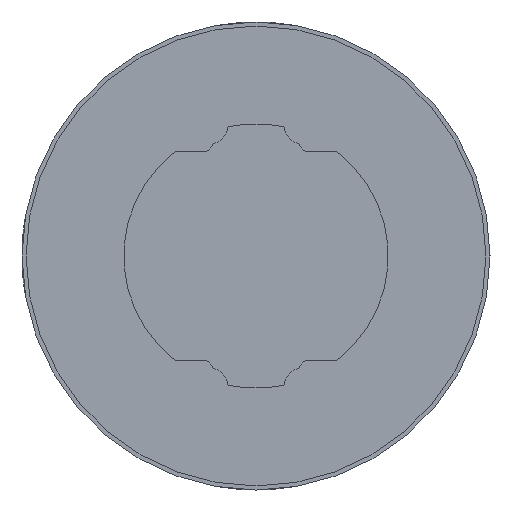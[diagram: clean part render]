
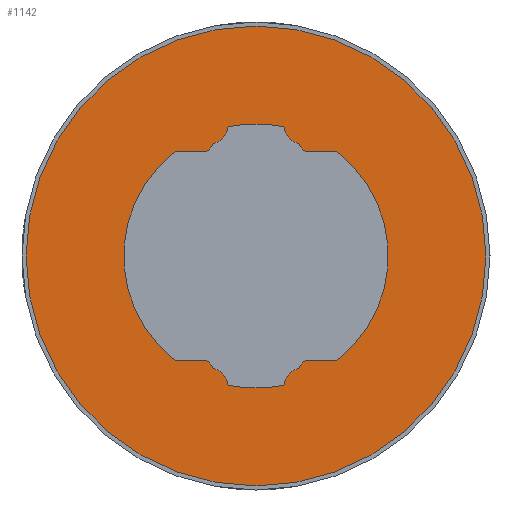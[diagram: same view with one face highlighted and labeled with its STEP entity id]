
A CAD part, left-side view. The second image highlights one B-rep face of the part: STEP entity #1142.
In plain terms, the highlighted planar face has unit normal (-1, 0, 0).
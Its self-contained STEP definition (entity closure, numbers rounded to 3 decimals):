
#46=PLANE('',#1265);
#101=LINE('',#1872,#189);
#102=LINE('',#1876,#190);
#103=LINE('',#1880,#191);
#104=LINE('',#1884,#192);
#105=LINE('',#1896,#193);
#106=LINE('',#1900,#194);
#107=LINE('',#1904,#195);
#108=LINE('',#1908,#196);
#189=VECTOR('',#1518,1000.);
#190=VECTOR('',#1521,1000.);
#191=VECTOR('',#1524,1000.);
#192=VECTOR('',#1527,1000.);
#193=VECTOR('',#1538,1000.);
#194=VECTOR('',#1541,1000.);
#195=VECTOR('',#1544,1000.);
#196=VECTOR('',#1547,1000.);
#381=ORIENTED_EDGE('',*,*,#641,.F.);
#382=ORIENTED_EDGE('',*,*,#642,.F.);
#383=ORIENTED_EDGE('',*,*,#643,.T.);
#384=ORIENTED_EDGE('',*,*,#644,.F.);
#385=ORIENTED_EDGE('',*,*,#645,.T.);
#386=ORIENTED_EDGE('',*,*,#646,.F.);
#387=ORIENTED_EDGE('',*,*,#647,.F.);
#388=ORIENTED_EDGE('',*,*,#648,.T.);
#389=ORIENTED_EDGE('',*,*,#649,.F.);
#390=ORIENTED_EDGE('',*,*,#650,.F.);
#391=ORIENTED_EDGE('',*,*,#651,.F.);
#392=ORIENTED_EDGE('',*,*,#652,.T.);
#393=ORIENTED_EDGE('',*,*,#653,.F.);
#394=ORIENTED_EDGE('',*,*,#654,.F.);
#395=ORIENTED_EDGE('',*,*,#655,.T.);
#396=ORIENTED_EDGE('',*,*,#656,.F.);
#397=ORIENTED_EDGE('',*,*,#657,.T.);
#398=ORIENTED_EDGE('',*,*,#658,.F.);
#399=ORIENTED_EDGE('',*,*,#659,.F.);
#400=ORIENTED_EDGE('',*,*,#660,.T.);
#401=ORIENTED_EDGE('',*,*,#661,.F.);
#402=ORIENTED_EDGE('',*,*,#662,.F.);
#403=ORIENTED_EDGE('',*,*,#663,.F.);
#404=ORIENTED_EDGE('',*,*,#664,.T.);
#405=ORIENTED_EDGE('',*,*,#665,.F.);
#641=EDGE_CURVE('',#783,#783,#881,.T.);
#642=EDGE_CURVE('',#784,#785,#882,.F.);
#643=EDGE_CURVE('',#784,#786,#883,.F.);
#644=EDGE_CURVE('',#787,#786,#884,.F.);
#645=EDGE_CURVE('',#787,#788,#885,.F.);
#646=EDGE_CURVE('',#789,#788,#886,.F.);
#647=EDGE_CURVE('',#790,#789,#101,.T.);
#648=EDGE_CURVE('',#790,#791,#887,.F.);
#649=EDGE_CURVE('',#792,#791,#102,.T.);
#650=EDGE_CURVE('',#793,#792,#888,.F.);
#651=EDGE_CURVE('',#794,#793,#103,.T.);
#652=EDGE_CURVE('',#794,#795,#889,.F.);
#653=EDGE_CURVE('',#796,#795,#104,.T.);
#654=EDGE_CURVE('',#797,#796,#890,.F.);
#655=EDGE_CURVE('',#797,#798,#891,.F.);
#656=EDGE_CURVE('',#799,#798,#892,.F.);
#657=EDGE_CURVE('',#799,#800,#893,.F.);
#658=EDGE_CURVE('',#801,#800,#894,.F.);
#659=EDGE_CURVE('',#802,#801,#105,.T.);
#660=EDGE_CURVE('',#802,#803,#895,.F.);
#661=EDGE_CURVE('',#804,#803,#106,.T.);
#662=EDGE_CURVE('',#805,#804,#896,.F.);
#663=EDGE_CURVE('',#806,#805,#107,.T.);
#664=EDGE_CURVE('',#806,#807,#897,.F.);
#665=EDGE_CURVE('',#785,#807,#108,.T.);
#783=VERTEX_POINT('',#1860);
#784=VERTEX_POINT('',#1862);
#785=VERTEX_POINT('',#1863);
#786=VERTEX_POINT('',#1865);
#787=VERTEX_POINT('',#1867);
#788=VERTEX_POINT('',#1869);
#789=VERTEX_POINT('',#1871);
#790=VERTEX_POINT('',#1873);
#791=VERTEX_POINT('',#1875);
#792=VERTEX_POINT('',#1877);
#793=VERTEX_POINT('',#1879);
#794=VERTEX_POINT('',#1881);
#795=VERTEX_POINT('',#1883);
#796=VERTEX_POINT('',#1885);
#797=VERTEX_POINT('',#1887);
#798=VERTEX_POINT('',#1889);
#799=VERTEX_POINT('',#1891);
#800=VERTEX_POINT('',#1893);
#801=VERTEX_POINT('',#1895);
#802=VERTEX_POINT('',#1897);
#803=VERTEX_POINT('',#1899);
#804=VERTEX_POINT('',#1901);
#805=VERTEX_POINT('',#1903);
#806=VERTEX_POINT('',#1905);
#807=VERTEX_POINT('',#1907);
#881=CIRCLE('',#1266,11.3);
#882=CIRCLE('',#1267,0.2);
#883=CIRCLE('',#1268,1.);
#884=CIRCLE('',#1269,6.5);
#885=CIRCLE('',#1270,1.);
#886=CIRCLE('',#1271,0.2);
#887=CIRCLE('',#1272,0.2);
#888=CIRCLE('',#1273,6.5);
#889=CIRCLE('',#1274,0.2);
#890=CIRCLE('',#1275,0.2);
#891=CIRCLE('',#1276,1.);
#892=CIRCLE('',#1277,6.5);
#893=CIRCLE('',#1278,1.);
#894=CIRCLE('',#1279,0.2);
#895=CIRCLE('',#1280,0.2);
#896=CIRCLE('',#1281,6.5);
#897=CIRCLE('',#1282,0.2);
#947=EDGE_LOOP('',(#381));
#948=EDGE_LOOP('',(#382,#383,#384,#385,#386,#387,#388,#389,#390,#391,#392,
#393,#394,#395,#396,#397,#398,#399,#400,#401,#402,#403,#404,#405));
#1025=FACE_BOUND('',#947,.T.);
#1026=FACE_BOUND('',#948,.T.);
#1142=ADVANCED_FACE('',(#1025,#1026),#46,.F.);
#1265=AXIS2_PLACEMENT_3D('',#1858,#1504,#1505);
#1266=AXIS2_PLACEMENT_3D('',#1859,#1506,#1507);
#1267=AXIS2_PLACEMENT_3D('',#1861,#1508,#1509);
#1268=AXIS2_PLACEMENT_3D('',#1864,#1510,#1511);
#1269=AXIS2_PLACEMENT_3D('',#1866,#1512,#1513);
#1270=AXIS2_PLACEMENT_3D('',#1868,#1514,#1515);
#1271=AXIS2_PLACEMENT_3D('',#1870,#1516,#1517);
#1272=AXIS2_PLACEMENT_3D('',#1874,#1519,#1520);
#1273=AXIS2_PLACEMENT_3D('',#1878,#1522,#1523);
#1274=AXIS2_PLACEMENT_3D('',#1882,#1525,#1526);
#1275=AXIS2_PLACEMENT_3D('',#1886,#1528,#1529);
#1276=AXIS2_PLACEMENT_3D('',#1888,#1530,#1531);
#1277=AXIS2_PLACEMENT_3D('',#1890,#1532,#1533);
#1278=AXIS2_PLACEMENT_3D('',#1892,#1534,#1535);
#1279=AXIS2_PLACEMENT_3D('',#1894,#1536,#1537);
#1280=AXIS2_PLACEMENT_3D('',#1898,#1539,#1540);
#1281=AXIS2_PLACEMENT_3D('',#1902,#1542,#1543);
#1282=AXIS2_PLACEMENT_3D('',#1906,#1545,#1546);
#1504=DIRECTION('',(1.,0.,0.));
#1505=DIRECTION('',(0.,0.,-1.));
#1506=DIRECTION('',(1.,0.,0.));
#1507=DIRECTION('',(0.,0.,-1.));
#1508=DIRECTION('',(1.,0.,0.));
#1509=DIRECTION('',(0.,0.,-1.));
#1510=DIRECTION('',(1.,0.,0.));
#1511=DIRECTION('',(0.,0.,-1.));
#1512=DIRECTION('',(1.,0.,0.));
#1513=DIRECTION('',(0.,0.,-1.));
#1514=DIRECTION('',(1.,0.,0.));
#1515=DIRECTION('',(0.,0.,-1.));
#1516=DIRECTION('',(1.,0.,0.));
#1517=DIRECTION('',(0.,0.,-1.));
#1518=DIRECTION('',(0.,0.5,0.866));
#1519=DIRECTION('',(1.,0.,0.));
#1520=DIRECTION('',(0.,0.,-1.));
#1521=DIRECTION('',(0.,1.,0.));
#1522=DIRECTION('',(1.,0.,0.));
#1523=DIRECTION('',(0.,0.,-1.));
#1524=DIRECTION('',(0.,-1.,0.));
#1525=DIRECTION('',(1.,0.,0.));
#1526=DIRECTION('',(0.,0.,-1.));
#1527=DIRECTION('',(0.,-0.5,0.866));
#1528=DIRECTION('',(1.,0.,0.));
#1529=DIRECTION('',(0.,0.,-1.));
#1530=DIRECTION('',(1.,0.,0.));
#1531=DIRECTION('',(0.,0.,-1.));
#1532=DIRECTION('',(1.,0.,0.));
#1533=DIRECTION('',(0.,0.,-1.));
#1534=DIRECTION('',(1.,0.,0.));
#1535=DIRECTION('',(0.,0.,-1.));
#1536=DIRECTION('',(1.,0.,0.));
#1537=DIRECTION('',(0.,0.,-1.));
#1538=DIRECTION('',(0.,-0.5,-0.866));
#1539=DIRECTION('',(1.,0.,0.));
#1540=DIRECTION('',(0.,0.,-1.));
#1541=DIRECTION('',(0.,-1.,0.));
#1542=DIRECTION('',(1.,0.,0.));
#1543=DIRECTION('',(0.,0.,-1.));
#1544=DIRECTION('',(0.,1.,0.));
#1545=DIRECTION('',(1.,0.,0.));
#1546=DIRECTION('',(0.,0.,-1.));
#1547=DIRECTION('',(0.,0.5,-0.866));
#1858=CARTESIAN_POINT('',(-16.2,0.,0.));
#1859=CARTESIAN_POINT('',(-16.2,0.,0.));
#1860=CARTESIAN_POINT('',(-16.2,0.,-11.3));
#1861=CARTESIAN_POINT('',(-16.2,1.98,5.346));
#1862=CARTESIAN_POINT('',(-16.2,2.043,5.535));
#1863=CARTESIAN_POINT('',(-16.2,2.153,5.446));
#1864=CARTESIAN_POINT('',(-16.2,2.36,6.484));
#1865=CARTESIAN_POINT('',(-16.2,1.368,6.354));
#1866=CARTESIAN_POINT('',(-16.2,0.,0.));
#1867=CARTESIAN_POINT('',(-16.2,-1.368,6.354));
#1868=CARTESIAN_POINT('',(-16.2,-2.36,6.484));
#1869=CARTESIAN_POINT('',(-16.2,-2.043,5.535));
#1870=CARTESIAN_POINT('',(-16.2,-1.98,5.346));
#1871=CARTESIAN_POINT('',(-16.2,-2.153,5.446));
#1872=CARTESIAN_POINT('',(-16.2,-3.973,2.294));
#1873=CARTESIAN_POINT('',(-16.2,-2.266,5.25));
#1874=CARTESIAN_POINT('',(-16.2,-2.439,5.35));
#1875=CARTESIAN_POINT('',(-16.2,-2.439,5.15));
#1876=CARTESIAN_POINT('',(-16.2,0.,5.15));
#1877=CARTESIAN_POINT('',(-16.2,-3.966,5.15));
#1878=CARTESIAN_POINT('',(-16.2,0.,0.));
#1879=CARTESIAN_POINT('',(-16.2,-3.966,-5.15));
#1880=CARTESIAN_POINT('',(-16.2,0.,-5.15));
#1881=CARTESIAN_POINT('',(-16.2,-2.439,-5.15));
#1882=CARTESIAN_POINT('',(-16.2,-2.439,-5.35));
#1883=CARTESIAN_POINT('',(-16.2,-2.266,-5.25));
#1884=CARTESIAN_POINT('',(-16.2,-3.973,-2.294));
#1885=CARTESIAN_POINT('',(-16.2,-2.153,-5.446));
#1886=CARTESIAN_POINT('',(-16.2,-1.98,-5.346));
#1887=CARTESIAN_POINT('',(-16.2,-2.043,-5.535));
#1888=CARTESIAN_POINT('',(-16.2,-2.36,-6.484));
#1889=CARTESIAN_POINT('',(-16.2,-1.368,-6.354));
#1890=CARTESIAN_POINT('',(-16.2,0.,0.));
#1891=CARTESIAN_POINT('',(-16.2,1.368,-6.354));
#1892=CARTESIAN_POINT('',(-16.2,2.36,-6.484));
#1893=CARTESIAN_POINT('',(-16.2,2.043,-5.535));
#1894=CARTESIAN_POINT('',(-16.2,1.98,-5.346));
#1895=CARTESIAN_POINT('',(-16.2,2.153,-5.446));
#1896=CARTESIAN_POINT('',(-16.2,3.973,-2.294));
#1897=CARTESIAN_POINT('',(-16.2,2.266,-5.25));
#1898=CARTESIAN_POINT('',(-16.2,2.439,-5.35));
#1899=CARTESIAN_POINT('',(-16.2,2.439,-5.15));
#1900=CARTESIAN_POINT('',(-16.2,0.,-5.15));
#1901=CARTESIAN_POINT('',(-16.2,3.966,-5.15));
#1902=CARTESIAN_POINT('',(-16.2,0.,0.));
#1903=CARTESIAN_POINT('',(-16.2,3.966,5.15));
#1904=CARTESIAN_POINT('',(-16.2,0.,5.15));
#1905=CARTESIAN_POINT('',(-16.2,2.439,5.15));
#1906=CARTESIAN_POINT('',(-16.2,2.439,5.35));
#1907=CARTESIAN_POINT('',(-16.2,2.266,5.25));
#1908=CARTESIAN_POINT('',(-16.2,3.973,2.294));
